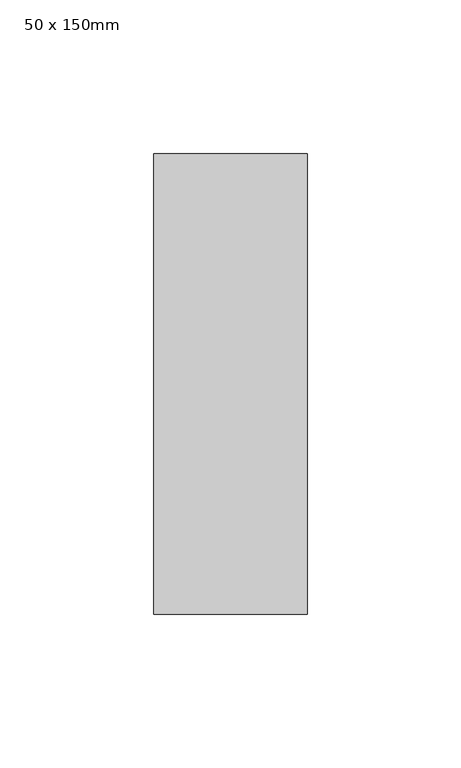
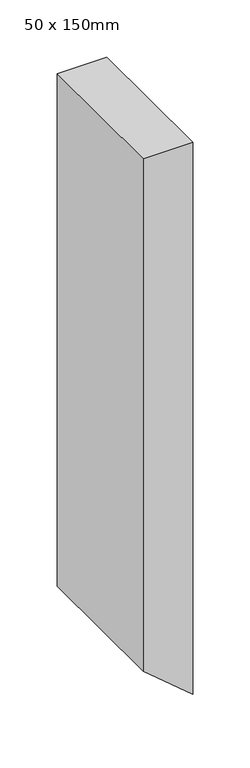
"""IFC4 building model written with IfcOpenShell, lengths in millimetres: member geometry, 矩形豎框 : 50 x 150mm."""

from ifc_helpers import new_model, si_unit, frame, origin, place, context, project, spatial, polyline, outline, extrude, source, transform, mapped, element, save


def member_50_x_150mm_a69757b9(model_context):
    return source(origin(), model_context, "Body", "SweptSolid", [
        extrude(outline(polyline([(0.0, 0.0), (0.0, -50.0), (-546.7623359, -50.0), (-588.7173175, 0.0), (0.0, 0.0)])), frame((0.0, -75.0, 0.0), z_axis=(0.0, 1.0, 0.0), x_axis=(0.0, 0.0, 1.0)), (0.0, 0.0, 1.0), 150.0),
    ])


if __name__ == "__main__":
    model = new_model("IFC4")
    model_context = context("Model", 3, world=origin())
    ifc_project = project(units=[si_unit("LENGTHUNIT", "METRE", prefix="MILLI")], contexts=[model_context])
    site = spatial("IfcSite", under=ifc_project)
    building = spatial("IfcBuilding", under=site)
    placement = place(None, origin())
    member_50_x_150mm_shape = member_50_x_150mm_a69757b9(model_context)
    element("IfcMember", 1, ObjectType="矩形豎框 : 50 x 150mm", at=placement, inside=building, context=model_context, shape_type="MappedRepresentation", body=[
        mapped(member_50_x_150mm_shape, transform((0.0, 0.0, 0.0), x_axis=(1.0, 0.0, 0.0), y_axis=(0.0, 1.0, 0.0), z_axis=(0.0, 0.0, 1.0))),
    ])
    save(model, "model.ifc")
